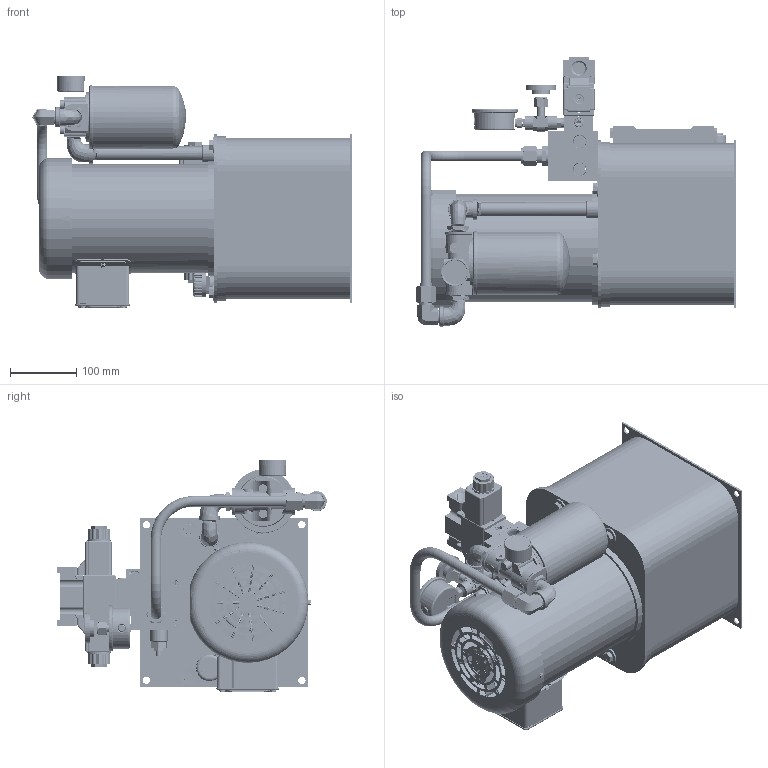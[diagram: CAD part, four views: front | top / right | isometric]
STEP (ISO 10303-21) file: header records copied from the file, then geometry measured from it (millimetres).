
FILE_DESCRIPTION (( 'STEP AP214' ), '1' );
FILE_NAME ('T2V-05-M-P1-F1-059c.STEP', '2021-09-09T15:28:25', ( '' ), ( '' ), 'SwSTEP 2.0', 'SolidWorks 2020', '' );
FILE_SCHEMA (( 'AUTOMOTIVE_DESIGN' ));
Length unit declared in the file: inch
Products named in the file (1): T2V-05-M-P1-F1-059c
Bounding box: 482.71 x 407.03 x 351.82 mm (x, y, z)
Surface area: 1051014.9 mm2 (no closed solid volume)
Topology: 0 solids, 156 shells, 2180 faces, 9204 edges, 6975 vertices
Faces by surface type: plane 788, cylinder 684, cone 377, bspline 190, torus 110, sphere 31
Entity records: 187714 total; most frequent: CARTESIAN_POINT 88998, DIRECTION 13479, ORIENTED_EDGE 13453, EDGE_CURVE 9180, VERTEX_POINT 6975, AXIS2_PLACEMENT_3D 4598, LINE 4283, VECTOR 4283
